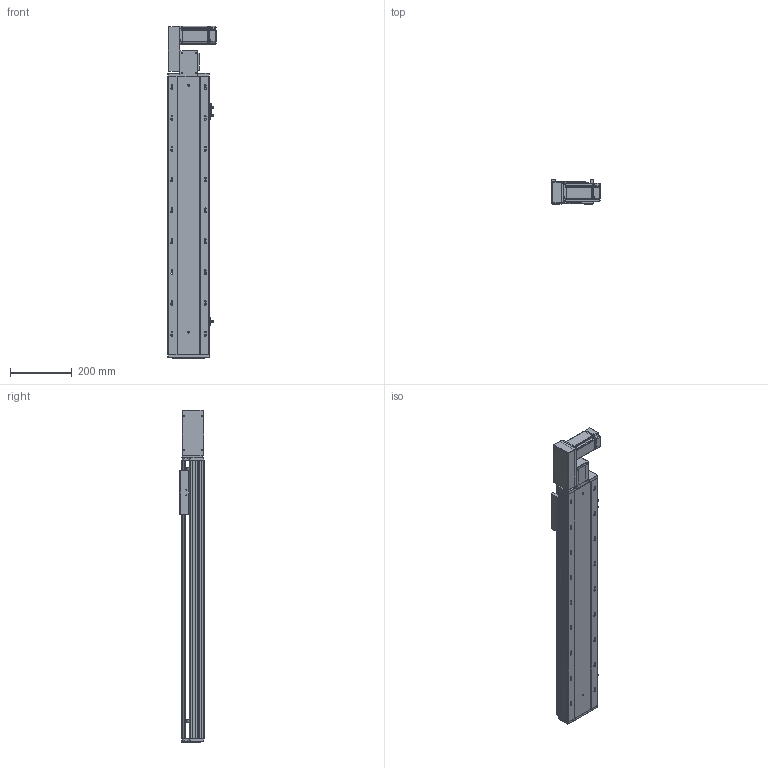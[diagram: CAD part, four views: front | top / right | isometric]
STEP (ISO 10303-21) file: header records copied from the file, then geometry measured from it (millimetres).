
FILE_DESCRIPTION (( 'STEP AP203' ), '1' );
FILE_NAME ('RY140-T-300-LK.SLDASM_650.step', '2021-03-01T06:35:04', ( '盈信电脑' ), ( '东莞市道滘镇水果街19号' ), 'SwSTEP 2.0', 'SolidWorks 2012', '' );
FILE_SCHEMA (( 'CONFIG_CONTROL_DESIGN' ));
Length unit declared in the file: millimetre
Products named in the file (18): RY140-T-300-DL倰第菁釱_650; RY140-T-300-LK.SLDASM_650; RY140-T翋肮謫裔啣; 滅袉蝶18-10; RY140-T萇儂欶; 侂狟400W侜督萇儂; RY120-T蹟翐M4; RY120-T主同步轮轴承压盖; RY140-T翋肮祭謫盓傅釱; RY120-T肮祭湍揤踡輸1; RY140-T萇儂假蚾啣; 15; RY120-T肮祭湍揤踡輸2; 覜茼ん672; RY140綴裔啣; RY120外置感应片(140共用）; RY140肮祭謫臏賑輸; RY140-T-300-DL倰第奻裔啣_650
Assembly tree (23 placements, depth 3):
  RY140-T-300-LK.SLDASM_650
    RY140-T-300-DL倰第菁釱_650
    RY140肮祭謫臏賑輸
    RY140-T-300-DL倰第奻裔啣_650
    RY140綴裔啣
    覜茼ん672  x3
    RY120外置感应片(140共用）
    RY120-T肮祭湍揤踡輸2
    RY120-T肮祭湍揤踡輸1
    RY140-T翋肮祭謫盓傅釱
    RY140-T萇儂假蚾啣
    侂狟400W侜督萇儂
      15
    RY120-T主同步轮轴承压盖
    RY120-T蹟翐M4  x4
    RY140-T萇儂欶
    滅袉蝶18-10  x2
    RY140-T翋肮謫裔啣
Bounding box: 157 x 78 x 1076.5 mm (x, y, z)
Volume: 3154855.8 mm3; surface area: 1183393.3 mm2
Topology: 22 solids, 22 shells, 2655 faces, 7297 edges, 4698 vertices
Faces by surface type: plane 1381, cylinder 976, cone 198, bspline 100
Entity records: 84461 total; most frequent: CARTESIAN_POINT 20753, ORIENTED_EDGE 13122, DIRECTION 12401, EDGE_CURVE 6561, VERTEX_POINT 4297, VECTOR 4193, LINE 4193, AXIS2_PLACEMENT_3D 4104
